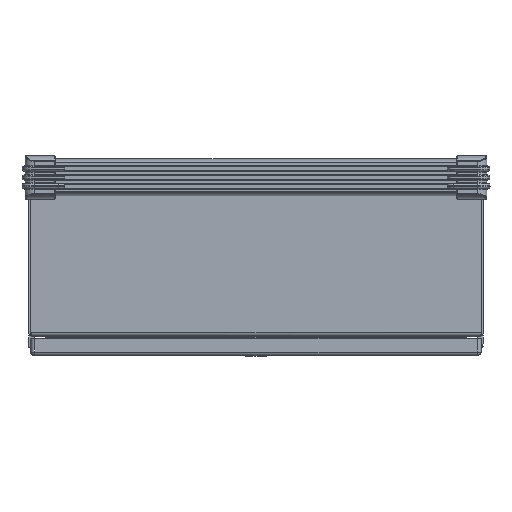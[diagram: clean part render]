
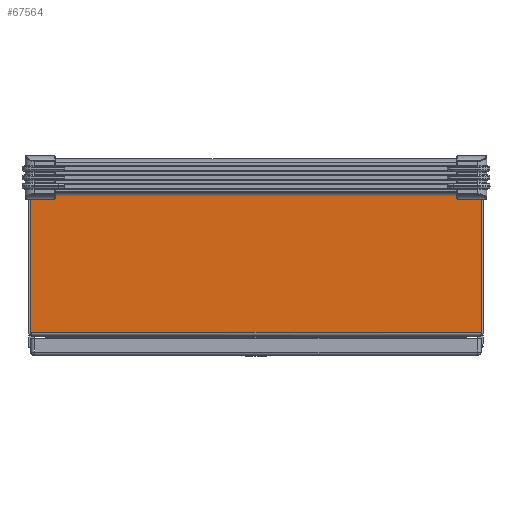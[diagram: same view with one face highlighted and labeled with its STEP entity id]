
A CAD part, left-side view. The second image highlights one B-rep face of the part: STEP entity #67564.
In plain terms, the highlighted planar face has unit normal (-1, 0, 0) as drawn and (1, 0, 0) by its records, which use the part's own axes.
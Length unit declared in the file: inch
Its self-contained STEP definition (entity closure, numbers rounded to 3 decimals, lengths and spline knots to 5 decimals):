
#9946 = CARTESIAN_POINT ( 'NONE',  ( 9.8435, -7.283, 0.553 ) ) ;
#9948 = DIRECTION ( 'NONE',  ( 1., 0., 0. ) ) ;
#9949 = DIRECTION ( 'NONE',  ( 0., 0., -1. ) ) ;
#9971 = CARTESIAN_POINT ( 'NONE',  ( 9.8435, 0., 0.553 ) ) ;
#9973 = DIRECTION ( 'NONE',  ( 1., 0., 0. ) ) ;
#9974 = DIRECTION ( 'NONE',  ( 0., 0., -1. ) ) ;
#9994 = CARTESIAN_POINT ( 'NONE',  ( 9.8435, 7.283, 0.553 ) ) ;
#9996 = DIRECTION ( 'NONE',  ( 1., 0., 0. ) ) ;
#9997 = DIRECTION ( 'NONE',  ( 0., 0., -1. ) ) ;
#14383 = CARTESIAN_POINT ( 'NONE',  ( 9.8435, -9.27143, 6.926 ) ) ;
#14385 = DIRECTION ( 'NONE',  ( 0., 0., -1. ) ) ;
#14673 = CARTESIAN_POINT ( 'NONE',  ( 9.8435, 9.27143, 6.926 ) ) ;
#14675 = DIRECTION ( 'NONE',  ( 0., 0., 1. ) ) ;
#14717 = CARTESIAN_POINT ( 'NONE',  ( 9.8435, -7.283, 0.553 ) ) ;
#14725 = DIRECTION ( 'NONE',  ( 1., 0., 0. ) ) ;
#14727 = DIRECTION ( 'NONE',  ( 0., 0., -1. ) ) ;
#14729 = CARTESIAN_POINT ( 'NONE',  ( 9.8435, 7.283, 0.553 ) ) ;
#14732 = DIRECTION ( 'NONE',  ( 1., 0., 0. ) ) ;
#14734 = DIRECTION ( 'NONE',  ( 0., 0., -1. ) ) ;
#14746 = CARTESIAN_POINT ( 'NONE',  ( 9.8435, -107.7855, 6.926 ) ) ;
#14752 = CARTESIAN_POINT ( 'NONE',  ( 9.8435, 0., 0.553 ) ) ;
#14769 = DIRECTION ( 'NONE',  ( 1., 0., 0. ) ) ;
#14771 = DIRECTION ( 'NONE',  ( 0., 0., -1. ) ) ;
#14773 = CARTESIAN_POINT ( 'NONE',  ( 9.8435, -107.7855, 0.132 ) ) ;
#14775 = DIRECTION ( 'NONE',  ( 0., 1., 0. ) ) ;
#14780 = DIRECTION ( 'NONE',  ( 0., 1., 0. ) ) ;
#17356 = FACE_BOUND ( 'NONE', #30871, .T. ) ;
#17361 = FACE_BOUND ( 'NONE', #30850, .T. ) ;
#17363 = FACE_BOUND ( 'NONE', #30849, .T. ) ;
#17365 = FACE_OUTER_BOUND ( 'NONE', #30848, .T. ) ;
#18211 = EDGE_CURVE ( 'NONE', #41154, #41158, #57249, .T. ) ;
#18303 = EDGE_CURVE ( 'NONE', #41111, #41116, #57306, .T. ) ;
#18322 = EDGE_CURVE ( 'NONE', #41314, #41316, #57329, .T. ) ;
#18324 = EDGE_CURVE ( 'NONE', #41291, #41292, #57331, .T. ) ;
#18337 = EDGE_CURVE ( 'NONE', #41302, #41305, #57344, .T. ) ;
#18340 = EDGE_CURVE ( 'NONE', #41154, #41116, #57343, .T. ) ;
#18342 = EDGE_CURVE ( 'NONE', #41158, #41111, #57337, .T. ) ;
#21637 = AXIS2_PLACEMENT_3D ( 'NONE', #9971, #9973, #9974 ) ;
#21638 = AXIS2_PLACEMENT_3D ( 'NONE', #9946, #9948, #9949 ) ;
#21652 = AXIS2_PLACEMENT_3D ( 'NONE', #9994, #9996, #9997 ) ;
#28650 = ORIENTED_EDGE ( 'NONE', *, *, #63469, .F. ) ;
#28651 = ORIENTED_EDGE ( 'NONE', *, *, #18322, .F. ) ;
#28652 = ORIENTED_EDGE ( 'NONE', *, *, #63477, .F. ) ;
#28653 = ORIENTED_EDGE ( 'NONE', *, *, #18337, .F. ) ;
#28654 = ORIENTED_EDGE ( 'NONE', *, *, #63485, .F. ) ;
#28655 = ORIENTED_EDGE ( 'NONE', *, *, #18324, .F. ) ;
#28656 = ORIENTED_EDGE ( 'NONE', *, *, #18303, .T. ) ;
#28657 = ORIENTED_EDGE ( 'NONE', *, *, #18340, .F. ) ;
#28658 = ORIENTED_EDGE ( 'NONE', *, *, #18211, .T. ) ;
#28659 = ORIENTED_EDGE ( 'NONE', *, *, #18342, .T. ) ;
#30848 = EDGE_LOOP ( 'NONE', ( #28656, #28657, #28658, #28659 ) ) ;
#30849 = EDGE_LOOP ( 'NONE', ( #28654, #28655 ) ) ;
#30850 = EDGE_LOOP ( 'NONE', ( #28652, #28653 ) ) ;
#30871 = EDGE_LOOP ( 'NONE', ( #28650, #28651 ) ) ;
#41111 = VERTEX_POINT ( 'NONE', #54470 ) ;
#41116 = VERTEX_POINT ( 'NONE', #54475 ) ;
#41154 = VERTEX_POINT ( 'NONE', #54513 ) ;
#41158 = VERTEX_POINT ( 'NONE', #54517 ) ;
#41291 = VERTEX_POINT ( 'NONE', #54650 ) ;
#41292 = VERTEX_POINT ( 'NONE', #54651 ) ;
#41302 = VERTEX_POINT ( 'NONE', #54661 ) ;
#41305 = VERTEX_POINT ( 'NONE', #54664 ) ;
#41314 = VERTEX_POINT ( 'NONE', #54673 ) ;
#41316 = VERTEX_POINT ( 'NONE', #54675 ) ;
#46098 = CIRCLE ( 'NONE', #21638, 0.109 ) ;
#46110 = CIRCLE ( 'NONE', #21637, 0.109 ) ;
#46122 = CIRCLE ( 'NONE', #21652, 0.109 ) ;
#48488 = AXIS2_PLACEMENT_3D ( 'NONE', #14729, #14732, #14734 ) ;
#48490 = AXIS2_PLACEMENT_3D ( 'NONE', #14717, #14725, #14727 ) ;
#48491 = AXIS2_PLACEMENT_3D ( 'NONE', #14752, #14769, #14771 ) ;
#54470 = CARTESIAN_POINT ( 'NONE',  ( 9.8435, 9.27143, 0.132 ) ) ;
#54475 = CARTESIAN_POINT ( 'NONE',  ( 9.8435, 9.27143, 6.926 ) ) ;
#54513 = CARTESIAN_POINT ( 'NONE',  ( 9.8435, -9.27143, 6.926 ) ) ;
#54517 = CARTESIAN_POINT ( 'NONE',  ( 9.8435, -9.27143, 0.132 ) ) ;
#54650 = CARTESIAN_POINT ( 'NONE',  ( 9.8435, 7.283, 0.444 ) ) ;
#54651 = CARTESIAN_POINT ( 'NONE',  ( 9.8435, 7.283, 0.662 ) ) ;
#54661 = CARTESIAN_POINT ( 'NONE',  ( 9.8435, 0., 0.444 ) ) ;
#54664 = CARTESIAN_POINT ( 'NONE',  ( 9.8435, 0., 0.662 ) ) ;
#54673 = CARTESIAN_POINT ( 'NONE',  ( 9.8435, -7.283, 0.444 ) ) ;
#54675 = CARTESIAN_POINT ( 'NONE',  ( 9.8435, -7.283, 0.662 ) ) ;
#57249 = LINE ( 'NONE', #14383, #57250 ) ;
#57250 = VECTOR ( 'NONE', #14385, 39.37008 ) ;
#57306 = LINE ( 'NONE', #14673, #57314 ) ;
#57314 = VECTOR ( 'NONE', #14675, 39.37008 ) ;
#57327 = VECTOR ( 'NONE', #14775, 39.37008 ) ;
#57329 = CIRCLE ( 'NONE', #48490, 0.109 ) ;
#57331 = CIRCLE ( 'NONE', #48488, 0.109 ) ;
#57337 = LINE ( 'NONE', #14773, #57345 ) ;
#57343 = LINE ( 'NONE', #14746, #57327 ) ;
#57344 = CIRCLE ( 'NONE', #48491, 0.109 ) ;
#57345 = VECTOR ( 'NONE', #14780, 39.37008 ) ;
#63469 = EDGE_CURVE ( 'NONE', #41316, #41314, #46098, .T. ) ;
#63477 = EDGE_CURVE ( 'NONE', #41305, #41302, #46110, .T. ) ;
#63485 = EDGE_CURVE ( 'NONE', #41292, #41291, #46122, .T. ) ;
#65933 = PLANE ( 'NONE',  #66616 ) ;
#65934 = CARTESIAN_POINT ( 'NONE',  ( 9.8435, -107.7855, 6.926 ) ) ;
#65935 = DIRECTION ( 'NONE',  ( 1., 0., 0. ) ) ;
#65936 = DIRECTION ( 'NONE',  ( 0., 0., -1. ) ) ;
#66616 = AXIS2_PLACEMENT_3D ( 'NONE', #65934, #65935, #65936 ) ;
#67564 = ADVANCED_FACE ( 'NONE', ( #17356, #17361, #17363, #17365 ), #65933, .T. ) ;
